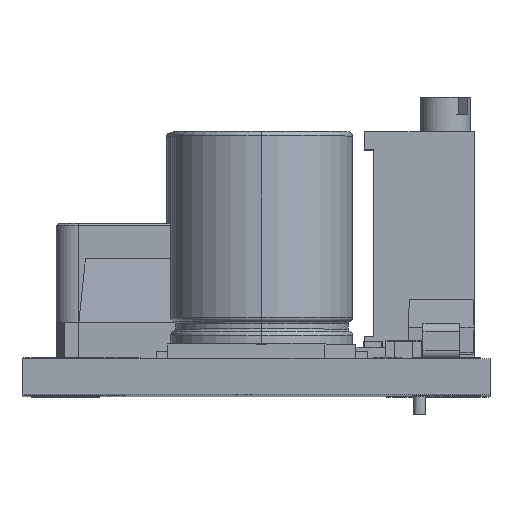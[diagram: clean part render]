
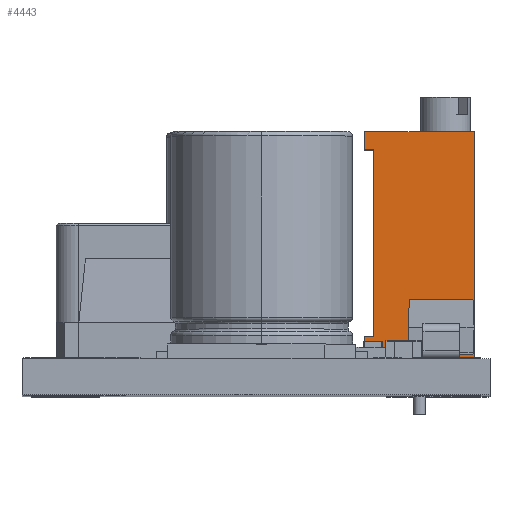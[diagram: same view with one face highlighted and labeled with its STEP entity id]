
A CAD part, top view. The second image highlights one B-rep face of the part: STEP entity #4443.
In plain terms, the highlighted planar face has unit normal (0, 0, 1) as drawn and (-1, 0, 0) by its records, which use the part's own axes.
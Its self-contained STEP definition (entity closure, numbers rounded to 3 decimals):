
#3164 = EDGE_CURVE ( 'NONE', #21358, #21415, #21963, .T. ) ;
#3844 = DIRECTION ( 'NONE',  ( 0., -1., 0. ) ) ;
#3845 = CARTESIAN_POINT ( 'NONE',  ( 0., 10.03, 0. ) ) ;
#4443 = ADVANCED_FACE ( 'NONE', ( #37690 ), #28762, .F. ) ;
#5612 = EDGE_CURVE ( 'NONE', #21636, #21358, #52946, .T. ) ;
#5618 = EDGE_CURVE ( 'NONE', #21603, #21614, #52904, .T. ) ;
#5621 = EDGE_CURVE ( 'NONE', #21550, #21603, #52865, .T. ) ;
#5625 = EDGE_CURVE ( 'NONE', #21550, #21590, #52908, .T. ) ;
#5642 = EDGE_CURVE ( 'NONE', #21636, #21538, #52961, .T. ) ;
#5692 = EDGE_CURVE ( 'NONE', #21614, #21538, #53138, .T. ) ;
#5706 = EDGE_CURVE ( 'NONE', #21590, #21415, #53089, .T. ) ;
#7601 = EDGE_LOOP ( 'NONE', ( #20392, #20393, #20403, #20390, #20368, #20414, #20386, #20369 ) ) ;
#17606 = AXIS2_PLACEMENT_3D ( 'NONE', #28738, #28730, #28815 ) ;
#20368 = ORIENTED_EDGE ( 'NONE', *, *, #5625, .T. ) ;
#20369 = ORIENTED_EDGE ( 'NONE', *, *, #5612, .F. ) ;
#20386 = ORIENTED_EDGE ( 'NONE', *, *, #3164, .F. ) ;
#20390 = ORIENTED_EDGE ( 'NONE', *, *, #5621, .F. ) ;
#20392 = ORIENTED_EDGE ( 'NONE', *, *, #5642, .T. ) ;
#20393 = ORIENTED_EDGE ( 'NONE', *, *, #5692, .F. ) ;
#20403 = ORIENTED_EDGE ( 'NONE', *, *, #5618, .F. ) ;
#20414 = ORIENTED_EDGE ( 'NONE', *, *, #5706, .T. ) ;
#21358 = VERTEX_POINT ( 'NONE', #47144 ) ;
#21415 = VERTEX_POINT ( 'NONE', #47089 ) ;
#21538 = VERTEX_POINT ( 'NONE', #47178 ) ;
#21550 = VERTEX_POINT ( 'NONE', #47151 ) ;
#21590 = VERTEX_POINT ( 'NONE', #47266 ) ;
#21603 = VERTEX_POINT ( 'NONE', #47222 ) ;
#21614 = VERTEX_POINT ( 'NONE', #47230 ) ;
#21636 = VERTEX_POINT ( 'NONE', #47273 ) ;
#21963 = LINE ( 'NONE', #3845, #21998 ) ;
#21998 = VECTOR ( 'NONE', #3844, 1000. ) ;
#28730 = DIRECTION ( 'NONE',  ( 1., 0., 0. ) ) ;
#28738 = CARTESIAN_POINT ( 'NONE',  ( 0., 10.03, 0. ) ) ;
#28762 = PLANE ( 'NONE',  #17606 ) ;
#28815 = DIRECTION ( 'NONE',  ( 0., 0., -1. ) ) ;
#37690 = FACE_OUTER_BOUND ( 'NONE', #7601, .T. ) ;
#47089 = CARTESIAN_POINT ( 'NONE',  ( 0., 0., 0. ) ) ;
#47144 = CARTESIAN_POINT ( 'NONE',  ( 0., 10.03, 0. ) ) ;
#47151 = CARTESIAN_POINT ( 'NONE',  ( 0., 1., -4.83 ) ) ;
#47178 = CARTESIAN_POINT ( 'NONE',  ( 0., 9.23, -4.83 ) ) ;
#47222 = CARTESIAN_POINT ( 'NONE',  ( 0., 1., -4.43 ) ) ;
#47230 = CARTESIAN_POINT ( 'NONE',  ( 0., 9.23, -4.43 ) ) ;
#47266 = CARTESIAN_POINT ( 'NONE',  ( 0., 0., -4.83 ) ) ;
#47273 = CARTESIAN_POINT ( 'NONE',  ( 0., 10.03, -4.83 ) ) ;
#52844 = VECTOR ( 'NONE', #55430, 1000. ) ;
#52865 = LINE ( 'NONE', #55475, #52878 ) ;
#52876 = VECTOR ( 'NONE', #55490, 1000. ) ;
#52878 = VECTOR ( 'NONE', #55480, 1000. ) ;
#52902 = VECTOR ( 'NONE', #55546, 1000. ) ;
#52904 = LINE ( 'NONE', #55474, #52876 ) ;
#52908 = LINE ( 'NONE', #55545, #52902 ) ;
#52946 = LINE ( 'NONE', #55449, #52844 ) ;
#52961 = LINE ( 'NONE', #55658, #52985 ) ;
#52985 = VECTOR ( 'NONE', #55667, 1000. ) ;
#53089 = LINE ( 'NONE', #55965, #53136 ) ;
#53133 = VECTOR ( 'NONE', #55934, 1000. ) ;
#53136 = VECTOR ( 'NONE', #55984, 1000. ) ;
#53138 = LINE ( 'NONE', #55925, #53133 ) ;
#55430 = DIRECTION ( 'NONE',  ( 0., 0., 1. ) ) ;
#55449 = CARTESIAN_POINT ( 'NONE',  ( 0., 10.03, 0. ) ) ;
#55474 = CARTESIAN_POINT ( 'NONE',  ( 0., 9.23, -4.43 ) ) ;
#55475 = CARTESIAN_POINT ( 'NONE',  ( 0., 1., -4.83 ) ) ;
#55480 = DIRECTION ( 'NONE',  ( 0., 0., 1. ) ) ;
#55490 = DIRECTION ( 'NONE',  ( 0., 1., 0. ) ) ;
#55545 = CARTESIAN_POINT ( 'NONE',  ( 0., 10.03, -4.83 ) ) ;
#55546 = DIRECTION ( 'NONE',  ( 0., -1., 0. ) ) ;
#55658 = CARTESIAN_POINT ( 'NONE',  ( 0., 10.03, -4.83 ) ) ;
#55667 = DIRECTION ( 'NONE',  ( 0., -1., 0. ) ) ;
#55925 = CARTESIAN_POINT ( 'NONE',  ( 0., 9.23, -4.83 ) ) ;
#55934 = DIRECTION ( 'NONE',  ( 0., 0., -1. ) ) ;
#55965 = CARTESIAN_POINT ( 'NONE',  ( 0., 0., 0. ) ) ;
#55984 = DIRECTION ( 'NONE',  ( 0., 0., 1. ) ) ;
